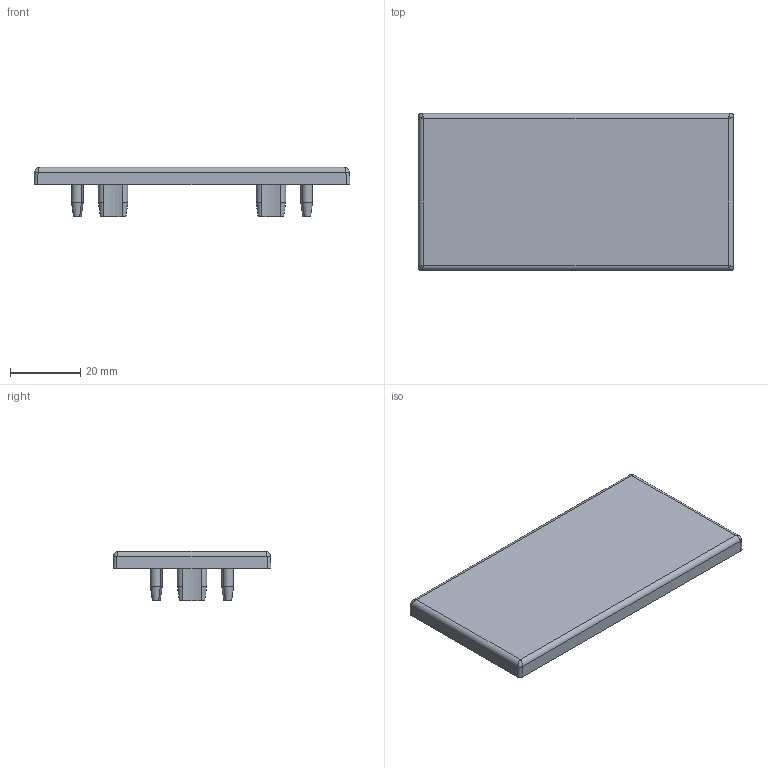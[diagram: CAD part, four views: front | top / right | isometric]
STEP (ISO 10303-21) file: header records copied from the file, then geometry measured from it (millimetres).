
FILE_DESCRIPTION(/* description */ (''),/* implementation_level */ '2;1');
FILE_NAME(/* name */ 'C:\Users\AMS43\Documents\Inventor\AMS\misumi\\X2\30A830F330C930AD30E330C330D7\X0\\ECP-4590-8\ECP-4590-8.iam.stp',/* time_stamp */ '2016-10-03T15:15:23+09:00',/* author */ ('AMS43'),/* organization */ (''),/* preprocessor_version */ 'ST-DEVELOPER v15.2',/* originating_system */ 'Autodesk Inventor 2014',/* authorisation */ '');
FILE_SCHEMA (('AUTOMOTIVE_DESIGN { 1 0 10303 214 3 1 1 }'));
Length unit declared in the file: metre
Products named in the file (4): ECP-4590-8; ECP-4590-8_1; ECP-4590-8_2
Assembly tree (3 placements, depth 2):
  ECP-4590-8
    ECP-4590-8
    ECP-4590-8_1
    ECP-4590-8_2
Bounding box: 90 x 45 x 14 mm (x, y, z)
Volume: 11440.1 mm3; surface area: 12193.4 mm2
Topology: 3 solids, 3 shells, 139 faces, 366 edges, 237 vertices
Faces by surface type: plane 55, cylinder 28, bspline 28, cone 24, torus 4
Full cylindrical faces by diameter (mm): 6 x2, 6.4 x2
Entity records: 6233 total; most frequent: CARTESIAN_POINT 3060, ORIENTED_EDGE 672, DIRECTION 565, EDGE_CURVE 336, VERTEX_POINT 231, AXIS2_PLACEMENT_3D 221, EDGE_LOOP 171, ADVANCED_FACE 139
